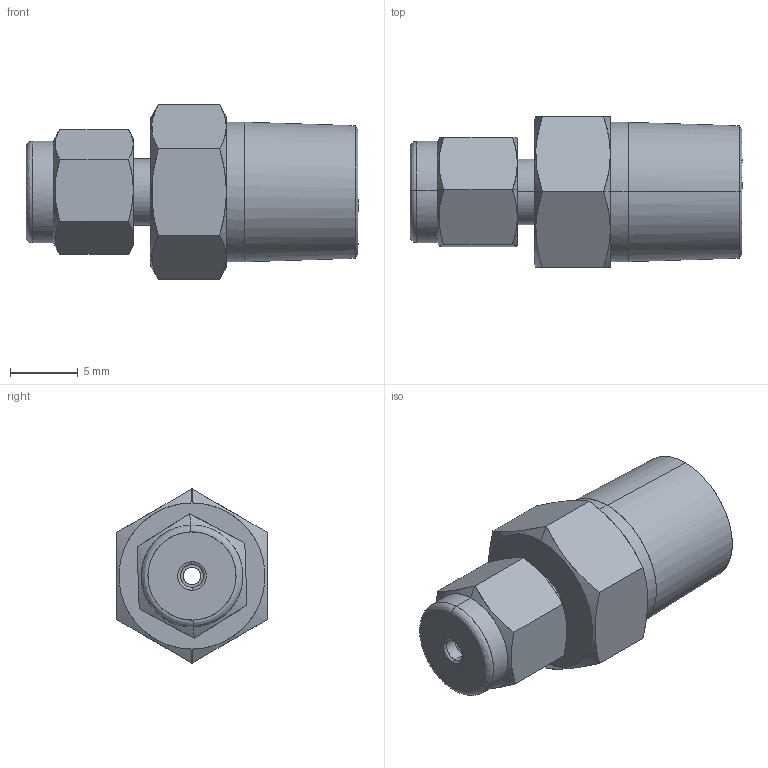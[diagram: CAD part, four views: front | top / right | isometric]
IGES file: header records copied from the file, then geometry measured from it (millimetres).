
Start section: Comment
Global section: file name: SMC1-2N.igs; native system:  By UGS Corp.; preprocessor: XPlus GENERIC/IGES 3.0; author: Author; organization: Title; date: 20100113.144521; units: millimetre
Bounding box: 24.45 x 11.11 x 12.83 mm (x, y, z)
Surface area: 1326.5 mm2 (no closed solid volume)
Topology: 0 solids, 0 shells, 88 faces, 553 edges, 550 vertices
Faces by surface type: bspline 88
